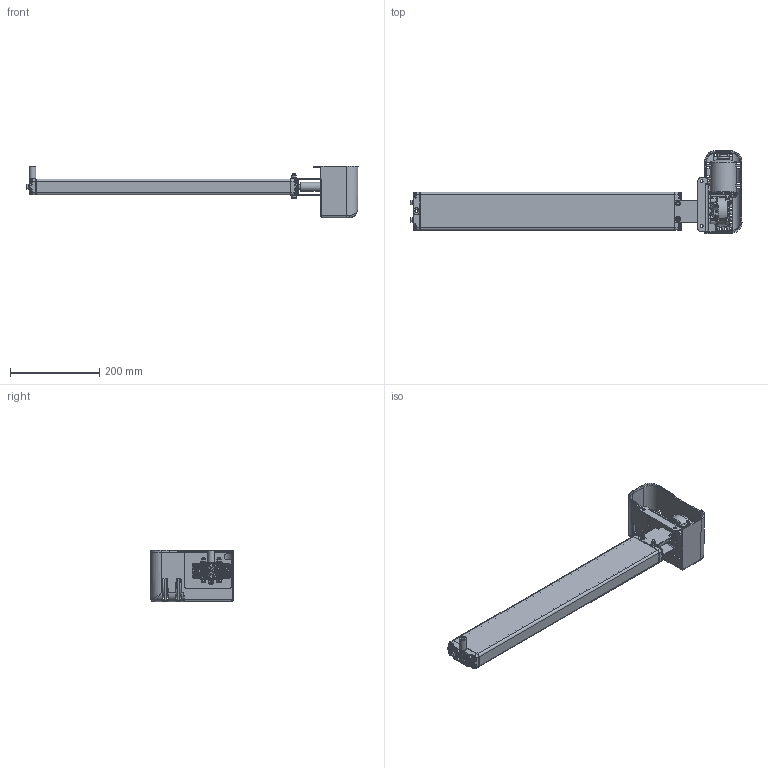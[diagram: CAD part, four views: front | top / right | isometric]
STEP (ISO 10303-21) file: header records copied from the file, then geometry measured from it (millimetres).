
FILE_DESCRIPTION(/* description */ ('Unknown'),/* implementation_level */ '2;1');
FILE_NAME(/* name */ '3X0.20004 Pumpe PA 2840 W mit Antrieb',/* time_stamp */ '2016-08-10T14:51:56+02:00',/* author */ ('Unknown'),/* organization */ ('Unknown'),/* preprocessor_version */ 'ST-DEVELOPER v16.7',/* originating_system */ 'DEX',/* authorisation */ $);
FILE_SCHEMA (('AUTOMOTIVE_DESIGN {1 0 10303 214 3 1 1}'));
Products named in the file (30): 100.20004; 115.00034; 125.00045; 115.00008; 142.00021; 125.00021; 142.00013; 125.00144; 122.00040; 126.00002; 119.00024; 126.00001; 127.00202; 127.00200; 127.00029; 124.00090; Getriebe; Ring; Schraube; Stator; Abdeckplatte; Antriebswelle; 128.00051; 123.00030; 142.00018; 142.00019; 142.00036; 142.00131; 123.00029; 142.00057
Assembly tree (42 placements, depth 3):
  100.20004
    115.00034  x2
      125.00045
      115.00008
      142.00021
      125.00021
    142.00013  x8
    125.00144
    122.00040
    126.00002
    119.00024
    126.00001
    127.00202
      127.00200
      127.00029
    124.00090
      Getriebe
      Ring
      Schraube
      Stator
      Abdeckplatte
      Antriebswelle
    128.00051
    123.00030
    142.00018  x2
    142.00019  x2
    142.00036  x2
    142.00131  x3
    123.00029
    142.00057
Bounding box: 743.42 x 186.04 x 115.45 mm (x, y, z)
Volume: 1031046.9 mm3; surface area: 595547.4 mm2
Topology: 40 solids, 40 shells, 4148 faces, 10487 edges, 6361 vertices
Faces by surface type: plane 1169, bspline 1140, cylinder 1132, cone 425, torus 196, sphere 86
Full cylindrical faces by diameter (mm): 2.5 x4, 3.2 x4, 3.5 x2, 3.9 x5, 4.1 x2, 4.2 x4, 4.4 x5, 4.5 x1, 4.917 x2, 5 x8, 5.5 x5, 6 x6, 6.4 x2, 6.8 x9, 6.917 x4, 7 x1, 8 x6, 8.5 x2, 9 x2, 9.5 x1, 9.8 x8, 10 x8, 10.3 x1, 10.32 x1, 10.4 x1, 11 x5, 14 x2, 14.4 x2, 15 x1, 17 x1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
Entity records: 169163 total; most frequent: CARTESIAN_POINT 89287, ORIENTED_EDGE 16600, DIRECTION 12162, EDGE_CURVE 8300, VERTEX_POINT 5374, AXIS2_PLACEMENT_3D 4821, FACE_BOUND 4048, EDGE_LOOP 4044
